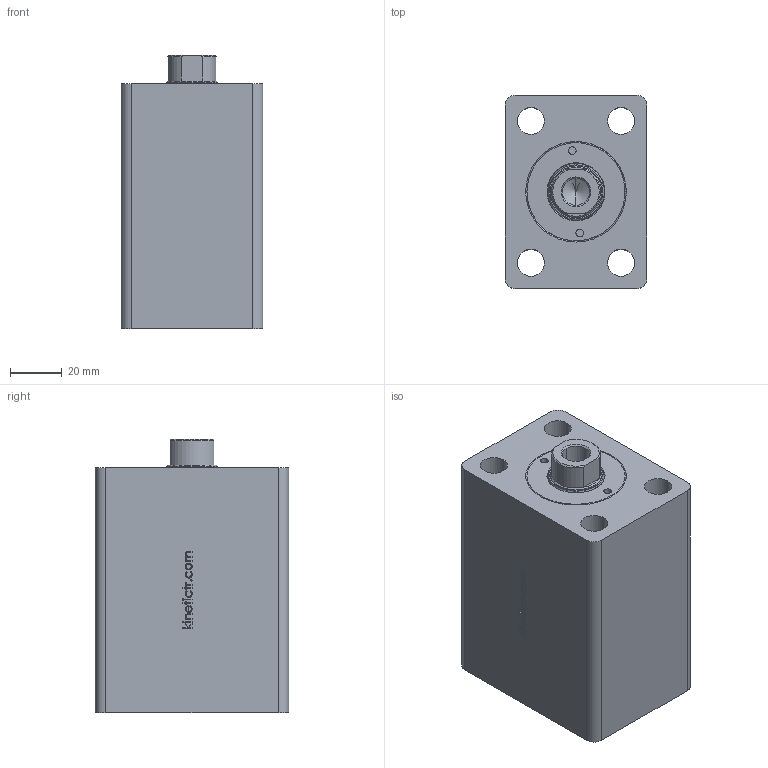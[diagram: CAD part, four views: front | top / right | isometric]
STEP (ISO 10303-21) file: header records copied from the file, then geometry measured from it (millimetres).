
FILE_DESCRIPTION (( 'STEP AP214' ), '1' );
FILE_NAME ('KBZ_02_32_20_45_WEB.STEP', '2020-05-27T09:19:50', ( '' ), ( '' ), 'SwSTEP 2.0', 'SolidWorks 2018', '' );
FILE_SCHEMA (( 'AUTOMOTIVE_DESIGN' ));
Length unit declared in the file: millimetre
Products named in the file (5): KBZ_02_32_20_45_WEB; KBZ_02_32_ON_kapak_WEB; KBZ_02_32_GOVDE; 20_K_MIL; K06-20X25X4_3X6
Assembly tree (4 placements, depth 2):
  KBZ_02_32_20_45_WEB
    KBZ_02_32_GOVDE
    20_K_MIL
    KBZ_02_32_ON_kapak_WEB
    K06-20X25X4_3X6
Bounding box: 55 x 75 x 106 mm (x, y, z)
Volume: 331208.1 mm3; surface area: 63439.2 mm2
Topology: 4 solids, 4 shells, 341 faces, 825 edges, 526 vertices
Faces by surface type: plane 133, cylinder 72, bspline 69, cone 67
Entity records: 13510 total; most frequent: CARTESIAN_POINT 5543, ORIENTED_EDGE 1646, DIRECTION 1438, EDGE_CURVE 823, VERTEX_POINT 526, AXIS2_PLACEMENT_3D 491, VECTOR 456, LINE 456
